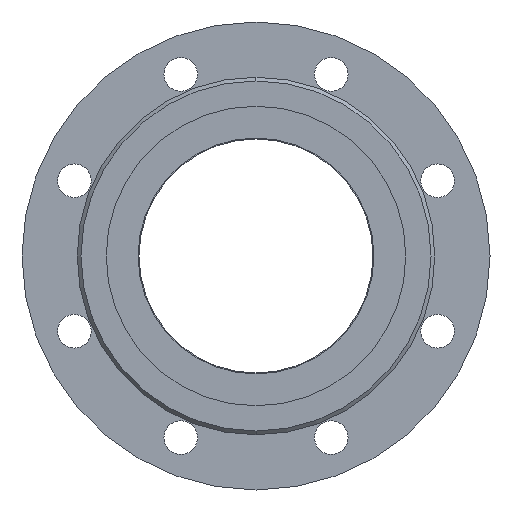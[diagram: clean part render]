
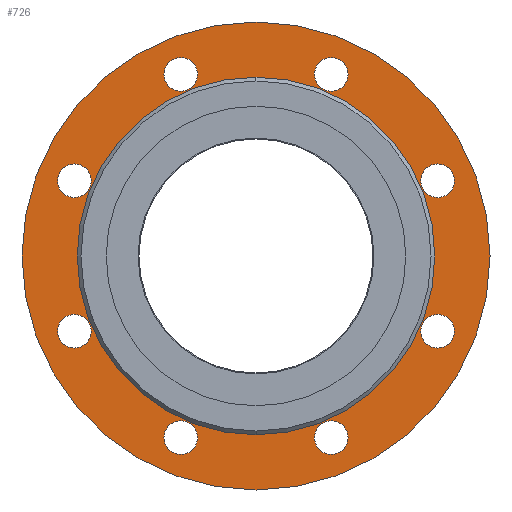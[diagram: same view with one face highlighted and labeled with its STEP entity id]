
A CAD part, left-side view. The second image highlights one B-rep face of the part: STEP entity #726.
In plain terms, the highlighted planar face has unit normal (-1, 0, 0).
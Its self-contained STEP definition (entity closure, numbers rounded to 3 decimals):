
#726=ADVANCED_FACE('',(#1402,#1403,#1404,#1405,#1406,#1407,#1408,#1409,#1410,#1411),#1412,.F.);
#1402=FACE_BOUND('',#2240,.T.);
#1403=FACE_BOUND('',#2241,.T.);
#1404=FACE_BOUND('',#2242,.T.);
#1405=FACE_BOUND('',#2243,.T.);
#1406=FACE_BOUND('',#2244,.T.);
#1407=FACE_BOUND('',#2245,.T.);
#1408=FACE_BOUND('',#2246,.T.);
#1409=FACE_BOUND('',#2247,.T.);
#1410=FACE_BOUND('',#2248,.T.);
#1411=FACE_OUTER_BOUND('',#2249,.T.);
#1412=PLANE('',#2250);
#2240=EDGE_LOOP('',(#3449,#3450));
#2241=EDGE_LOOP('',(#3451,#3452));
#2242=EDGE_LOOP('',(#3453,#3454));
#2243=EDGE_LOOP('',(#3455,#3456));
#2244=EDGE_LOOP('',(#3457,#3458));
#2245=EDGE_LOOP('',(#3459,#3460));
#2246=EDGE_LOOP('',(#3461,#3462));
#2247=EDGE_LOOP('',(#3463,#3464));
#2248=EDGE_LOOP('',(#3465,#3466));
#2249=EDGE_LOOP('',(#3467,#3468));
#2250=AXIS2_PLACEMENT_3D('',#3469,#3470,#3471);
#3449=ORIENTED_EDGE('',*,*,#4849,.T.);
#3450=ORIENTED_EDGE('',*,*,#4850,.T.);
#3451=ORIENTED_EDGE('',*,*,#4659,.T.);
#3452=ORIENTED_EDGE('',*,*,#4414,.T.);
#3453=ORIENTED_EDGE('',*,*,#4567,.T.);
#3454=ORIENTED_EDGE('',*,*,#4620,.T.);
#3455=ORIENTED_EDGE('',*,*,#4851,.T.);
#3456=ORIENTED_EDGE('',*,*,#4852,.T.);
#3457=ORIENTED_EDGE('',*,*,#4768,.T.);
#3458=ORIENTED_EDGE('',*,*,#4523,.T.);
#3459=ORIENTED_EDGE('',*,*,#4853,.T.);
#3460=ORIENTED_EDGE('',*,*,#4831,.T.);
#3461=ORIENTED_EDGE('',*,*,#4540,.T.);
#3462=ORIENTED_EDGE('',*,*,#4854,.T.);
#3463=ORIENTED_EDGE('',*,*,#4855,.T.);
#3464=ORIENTED_EDGE('',*,*,#4629,.T.);
#3465=ORIENTED_EDGE('',*,*,#4856,.T.);
#3466=ORIENTED_EDGE('',*,*,#4788,.T.);
#3467=ORIENTED_EDGE('',*,*,#4857,.F.);
#3468=ORIENTED_EDGE('',*,*,#4591,.F.);
#3469=CARTESIAN_POINT('',(5.0,0.0,0.));
#3470=DIRECTION('',(1.0,0.0,0.));
#3471=DIRECTION('',(0.,0.0,-1.0));
#4414=EDGE_CURVE('',#5123,#5121,#5124,.T.);
#4523=EDGE_CURVE('',#5317,#5315,#5318,.T.);
#4540=EDGE_CURVE('',#5340,#5344,#5346,.T.);
#4567=EDGE_CURVE('',#5383,#5387,#5389,.T.);
#4591=EDGE_CURVE('',#5424,#5419,#5426,.T.);
#4620=EDGE_CURVE('',#5387,#5383,#5468,.T.);
#4629=EDGE_CURVE('',#5481,#5479,#5482,.T.);
#4659=EDGE_CURVE('',#5121,#5123,#5527,.T.);
#4768=EDGE_CURVE('',#5315,#5317,#5693,.T.);
#4788=EDGE_CURVE('',#5725,#5723,#5726,.T.);
#4831=EDGE_CURVE('',#5782,#5780,#5783,.T.);
#4849=EDGE_CURVE('',#5807,#5808,#5809,.T.);
#4850=EDGE_CURVE('',#5808,#5807,#5810,.T.);
#4851=EDGE_CURVE('',#5811,#5812,#5813,.T.);
#4852=EDGE_CURVE('',#5812,#5811,#5814,.T.);
#4853=EDGE_CURVE('',#5780,#5782,#5815,.T.);
#4854=EDGE_CURVE('',#5344,#5340,#5816,.T.);
#4855=EDGE_CURVE('',#5479,#5481,#5817,.T.);
#4856=EDGE_CURVE('',#5723,#5725,#5818,.T.);
#4857=EDGE_CURVE('',#5419,#5424,#5819,.T.);
#5121=VERTEX_POINT('',#6131);
#5123=VERTEX_POINT('',#6134);
#5124=CIRCLE('',#6135,9.0);
#5315=VERTEX_POINT('',#6370);
#5317=VERTEX_POINT('',#6373);
#5318=CIRCLE('',#6374,9.0);
#5340=VERTEX_POINT('',#6399);
#5344=VERTEX_POINT('',#6404);
#5346=CIRCLE('',#6407,9.0);
#5383=VERTEX_POINT('',#6452);
#5387=VERTEX_POINT('',#6457);
#5389=CIRCLE('',#6460,9.0);
#5419=VERTEX_POINT('',#6495);
#5424=VERTEX_POINT('',#6501);
#5426=CIRCLE('',#6504,125.0);
#5468=CIRCLE('',#6558,9.0);
#5479=VERTEX_POINT('',#6571);
#5481=VERTEX_POINT('',#6574);
#5482=CIRCLE('',#6575,9.0);
#5527=CIRCLE('',#6629,9.0);
#5693=CIRCLE('',#6840,9.0);
#5723=VERTEX_POINT('',#6877);
#5725=VERTEX_POINT('',#6880);
#5726=CIRCLE('',#6881,9.0);
#5780=VERTEX_POINT('',#6946);
#5782=VERTEX_POINT('',#6949);
#5783=CIRCLE('',#6950,9.0);
#5807=VERTEX_POINT('',#6982);
#5808=VERTEX_POINT('',#6983);
#5809=CIRCLE('',#6984,62.5);
#5810=CIRCLE('',#6985,62.5);
#5811=VERTEX_POINT('',#6986);
#5812=VERTEX_POINT('',#6987);
#5813=CIRCLE('',#6988,9.0);
#5814=CIRCLE('',#6989,9.0);
#5815=CIRCLE('',#6990,9.0);
#5816=CIRCLE('',#6991,9.0);
#5817=CIRCLE('',#6992,9.0);
#5818=CIRCLE('',#6993,9.0);
#5819=CIRCLE('',#6994,125.0);
#6131=CARTESIAN_POINT('',(5.0,97.007,-49.182));
#6134=CARTESIAN_POINT('',(5.0,97.007,-31.182));
#6135=AXIS2_PLACEMENT_3D('',#7374,#7375,#7376);
#6370=CARTESIAN_POINT('',(5.0,-40.182,88.007));
#6373=CARTESIAN_POINT('',(5.,-40.182,106.007));
#6374=AXIS2_PLACEMENT_3D('',#7548,#7549,#7550);
#6399=CARTESIAN_POINT('',(5.0,40.182,88.007));
#6404=CARTESIAN_POINT('',(5.,40.182,106.007));
#6407=AXIS2_PLACEMENT_3D('',#7577,#7578,#7579);
#6452=CARTESIAN_POINT('',(5.0,40.182,-106.007));
#6457=CARTESIAN_POINT('',(5.,40.182,-88.007));
#6460=AXIS2_PLACEMENT_3D('',#7617,#7618,#7619);
#6495=CARTESIAN_POINT('',(5.,0.0,-125.0));
#6501=CARTESIAN_POINT('',(5.,0.,125.0));
#6504=AXIS2_PLACEMENT_3D('',#7657,#7658,#7659);
#6558=AXIS2_PLACEMENT_3D('',#7693,#7694,#7695);
#6571=CARTESIAN_POINT('',(5.0,-97.007,-49.182));
#6574=CARTESIAN_POINT('',(5.0,-97.007,-31.182));
#6575=AXIS2_PLACEMENT_3D('',#7705,#7706,#7707);
#6629=AXIS2_PLACEMENT_3D('',#7753,#7754,#7755);
#6840=AXIS2_PLACEMENT_3D('',#7894,#7895,#7896);
#6877=CARTESIAN_POINT('',(5.0,-40.182,-106.007));
#6880=CARTESIAN_POINT('',(5.,-40.182,-88.007));
#6881=AXIS2_PLACEMENT_3D('',#7923,#7924,#7925);
#6946=CARTESIAN_POINT('',(5.0,97.007,31.182));
#6949=CARTESIAN_POINT('',(5.0,97.007,49.182));
#6950=AXIS2_PLACEMENT_3D('',#7986,#7987,#7988);
#6982=CARTESIAN_POINT('',(5.0,0.,62.5));
#6983=CARTESIAN_POINT('',(5.0,0.,-62.5));
#6984=AXIS2_PLACEMENT_3D('',#8009,#8010,#8011);
#6985=AXIS2_PLACEMENT_3D('',#8012,#8013,#8014);
#6986=CARTESIAN_POINT('',(5.0,-97.007,31.182));
#6987=CARTESIAN_POINT('',(5.0,-97.007,49.182));
#6988=AXIS2_PLACEMENT_3D('',#8015,#8016,#8017);
#6989=AXIS2_PLACEMENT_3D('',#8018,#8019,#8020);
#6990=AXIS2_PLACEMENT_3D('',#8021,#8022,#8023);
#6991=AXIS2_PLACEMENT_3D('',#8024,#8025,#8026);
#6992=AXIS2_PLACEMENT_3D('',#8027,#8028,#8029);
#6993=AXIS2_PLACEMENT_3D('',#8030,#8031,#8032);
#6994=AXIS2_PLACEMENT_3D('',#8033,#8034,#8035);
#7374=CARTESIAN_POINT('',(5.0,97.007,-40.182));
#7375=DIRECTION('',(1.0,0.0,0.));
#7376=DIRECTION('',(0.,0.0,-1.0));
#7548=CARTESIAN_POINT('',(5.,-40.182,97.007));
#7549=DIRECTION('',(1.0,0.0,0.));
#7550=DIRECTION('',(0.,0.0,-1.0));
#7577=CARTESIAN_POINT('',(5.,40.182,97.007));
#7578=DIRECTION('',(1.0,0.0,0.));
#7579=DIRECTION('',(0.,0.0,-1.0));
#7617=CARTESIAN_POINT('',(5.,40.182,-97.007));
#7618=DIRECTION('',(1.0,0.0,0.));
#7619=DIRECTION('',(0.,0.0,-1.0));
#7657=CARTESIAN_POINT('',(5.0,0.0,0.));
#7658=DIRECTION('',(1.0,0.0,0.));
#7659=DIRECTION('',(0.,0.0,-1.0));
#7693=CARTESIAN_POINT('',(5.,40.182,-97.007));
#7694=DIRECTION('',(1.0,0.0,0.));
#7695=DIRECTION('',(0.,0.0,-1.0));
#7705=CARTESIAN_POINT('',(5.0,-97.007,-40.182));
#7706=DIRECTION('',(1.0,0.0,0.));
#7707=DIRECTION('',(0.,0.0,-1.0));
#7753=CARTESIAN_POINT('',(5.0,97.007,-40.182));
#7754=DIRECTION('',(1.0,0.0,0.));
#7755=DIRECTION('',(0.,0.0,-1.0));
#7894=CARTESIAN_POINT('',(5.,-40.182,97.007));
#7895=DIRECTION('',(1.0,0.0,0.));
#7896=DIRECTION('',(0.,0.0,-1.0));
#7923=CARTESIAN_POINT('',(5.,-40.182,-97.007));
#7924=DIRECTION('',(1.0,0.0,0.));
#7925=DIRECTION('',(0.,0.0,-1.0));
#7986=CARTESIAN_POINT('',(5.0,97.007,40.182));
#7987=DIRECTION('',(1.0,0.0,0.));
#7988=DIRECTION('',(0.,0.0,-1.0));
#8009=CARTESIAN_POINT('',(5.0,0.0,0.));
#8010=DIRECTION('',(1.0,0.0,0.));
#8011=DIRECTION('',(0.,0.0,-1.0));
#8012=CARTESIAN_POINT('',(5.0,0.0,0.));
#8013=DIRECTION('',(1.0,0.0,0.));
#8014=DIRECTION('',(0.,0.0,-1.0));
#8015=CARTESIAN_POINT('',(5.0,-97.007,40.182));
#8016=DIRECTION('',(1.0,0.0,0.));
#8017=DIRECTION('',(0.,0.0,-1.0));
#8018=CARTESIAN_POINT('',(5.0,-97.007,40.182));
#8019=DIRECTION('',(1.0,0.0,0.));
#8020=DIRECTION('',(0.,0.0,-1.0));
#8021=CARTESIAN_POINT('',(5.0,97.007,40.182));
#8022=DIRECTION('',(1.0,0.0,0.));
#8023=DIRECTION('',(0.,0.0,-1.0));
#8024=CARTESIAN_POINT('',(5.,40.182,97.007));
#8025=DIRECTION('',(1.0,0.0,0.));
#8026=DIRECTION('',(0.,0.0,-1.0));
#8027=CARTESIAN_POINT('',(5.0,-97.007,-40.182));
#8028=DIRECTION('',(1.0,0.0,0.));
#8029=DIRECTION('',(0.,0.0,-1.0));
#8030=CARTESIAN_POINT('',(5.,-40.182,-97.007));
#8031=DIRECTION('',(1.0,0.0,0.));
#8032=DIRECTION('',(0.,0.0,-1.0));
#8033=CARTESIAN_POINT('',(5.0,0.0,0.));
#8034=DIRECTION('',(1.0,0.0,0.));
#8035=DIRECTION('',(0.,0.0,-1.0));
